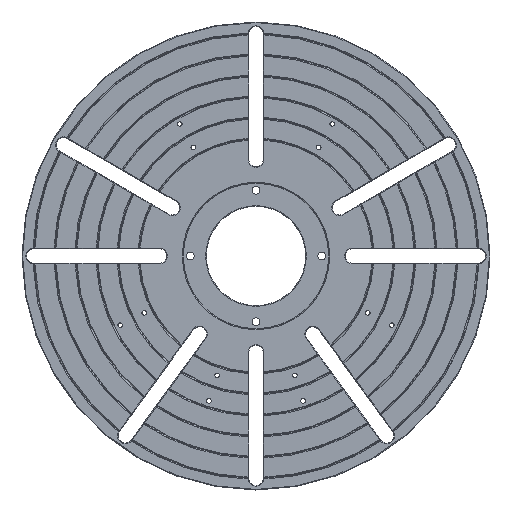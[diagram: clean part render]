
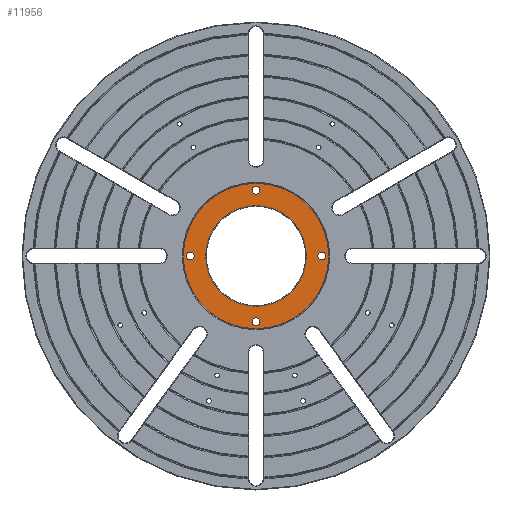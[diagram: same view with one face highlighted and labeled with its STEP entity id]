
A CAD part, top view. The second image highlights one B-rep face of the part: STEP entity #11956.
In plain terms, the highlighted planar face has unit normal (0, 0, 1).
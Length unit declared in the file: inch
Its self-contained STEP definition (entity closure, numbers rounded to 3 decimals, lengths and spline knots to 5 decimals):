
#22 = CIRCLE ( 'NONE', #10903, 0.068 ) ;
#164 = DIRECTION ( 'NONE',  ( 0., 0., 1. ) ) ;
#245 = EDGE_LOOP ( 'NONE', ( #4980, #3644 ) ) ;
#438 = AXIS2_PLACEMENT_3D ( 'NONE', #6849, #13136, #10832 ) ;
#711 = CIRCLE ( 'NONE', #12593, 0.068 ) ;
#932 = CARTESIAN_POINT ( 'NONE',  ( 0.86, 0., 0.166 ) ) ;
#1029 = ORIENTED_EDGE ( 'NONE', *, *, #10534, .F. ) ;
#1060 = EDGE_LOOP ( 'NONE', ( #3704, #4213 ) ) ;
#1062 = VERTEX_POINT ( 'NONE', #13602 ) ;
#1294 = DIRECTION ( 'NONE',  ( 0., 0., 1. ) ) ;
#1451 = AXIS2_PLACEMENT_3D ( 'NONE', #10547, #164, #6986 ) ;
#1683 = DIRECTION ( 'NONE',  ( 1., 0., 0. ) ) ;
#1782 = DIRECTION ( 'NONE',  ( 0., 0., -1. ) ) ;
#1887 = EDGE_LOOP ( 'NONE', ( #11850, #14687 ) ) ;
#1922 = FACE_BOUND ( 'NONE', #1887, .T. ) ;
#1926 = CIRCLE ( 'NONE', #2172, 0.068 ) ;
#2077 = DIRECTION ( 'NONE',  ( 1., 0., 0. ) ) ;
#2172 = AXIS2_PLACEMENT_3D ( 'NONE', #10251, #6840, #9037 ) ;
#2285 = EDGE_CURVE ( 'NONE', #14203, #6274, #12588, .T. ) ;
#2501 = CARTESIAN_POINT ( 'NONE',  ( 0., 1.125, 0.166 ) ) ;
#2569 = ORIENTED_EDGE ( 'NONE', *, *, #14588, .F. ) ;
#2592 = AXIS2_PLACEMENT_3D ( 'NONE', #10196, #11255, #2077 ) ;
#2774 = CARTESIAN_POINT ( 'NONE',  ( -0.86, 0., 0.166 ) ) ;
#3142 = AXIS2_PLACEMENT_3D ( 'NONE', #3345, #7052, #12750 ) ;
#3203 = CARTESIAN_POINT ( 'NONE',  ( 1.125, 0., 0.166 ) ) ;
#3218 = FACE_BOUND ( 'NONE', #12717, .T. ) ;
#3345 = CARTESIAN_POINT ( 'NONE',  ( 0., 0., 0.166 ) ) ;
#3348 = DIRECTION ( 'NONE',  ( 1., 0., 0. ) ) ;
#3385 = CARTESIAN_POINT ( 'NONE',  ( 0., 1.125, 0.166 ) ) ;
#3590 = DIRECTION ( 'NONE',  ( 0., 0., 1. ) ) ;
#3623 = CIRCLE ( 'NONE', #3142, 1.2425 ) ;
#3644 = ORIENTED_EDGE ( 'NONE', *, *, #7268, .T. ) ;
#3704 = ORIENTED_EDGE ( 'NONE', *, *, #8413, .F. ) ;
#4213 = ORIENTED_EDGE ( 'NONE', *, *, #7509, .F. ) ;
#4387 = EDGE_LOOP ( 'NONE', ( #12112, #8284 ) ) ;
#4550 = AXIS2_PLACEMENT_3D ( 'NONE', #12170, #1782, #6394 ) ;
#4640 = EDGE_CURVE ( 'NONE', #6274, #14203, #8661, .T. ) ;
#4794 = EDGE_CURVE ( 'NONE', #6430, #5957, #5529, .T. ) ;
#4980 = ORIENTED_EDGE ( 'NONE', *, *, #4794, .T. ) ;
#5334 = FACE_BOUND ( 'NONE', #5689, .T. ) ;
#5529 = CIRCLE ( 'NONE', #8195, 1.2425 ) ;
#5689 = EDGE_LOOP ( 'NONE', ( #13334, #2569 ) ) ;
#5957 = VERTEX_POINT ( 'NONE', #12781 ) ;
#6008 = AXIS2_PLACEMENT_3D ( 'NONE', #14655, #13670, #11176 ) ;
#6131 = CARTESIAN_POINT ( 'NONE',  ( -0.068, -1.125, 0.166 ) ) ;
#6268 = CIRCLE ( 'NONE', #1451, 0.068 ) ;
#6274 = VERTEX_POINT ( 'NONE', #2774 ) ;
#6333 = ORIENTED_EDGE ( 'NONE', *, *, #13546, .F. ) ;
#6394 = DIRECTION ( 'NONE',  ( 1., 0., 0. ) ) ;
#6430 = VERTEX_POINT ( 'NONE', #12336 ) ;
#6546 = FACE_BOUND ( 'NONE', #4387, .T. ) ;
#6597 = VERTEX_POINT ( 'NONE', #13981 ) ;
#6617 = PLANE ( 'NONE',  #6008 ) ;
#6629 = VERTEX_POINT ( 'NONE', #12070 ) ;
#6675 = DIRECTION ( 'NONE',  ( 1., 0., 0. ) ) ;
#6810 = CIRCLE ( 'NONE', #7524, 0.068 ) ;
#6840 = DIRECTION ( 'NONE',  ( 0., 0., 1. ) ) ;
#6849 = CARTESIAN_POINT ( 'NONE',  ( 1.125, 0., 0.166 ) ) ;
#6986 = DIRECTION ( 'NONE',  ( 1., 0., 0. ) ) ;
#7020 = AXIS2_PLACEMENT_3D ( 'NONE', #14342, #8494, #1683 ) ;
#7052 = DIRECTION ( 'NONE',  ( 0., 0., 1. ) ) ;
#7268 = EDGE_CURVE ( 'NONE', #5957, #6430, #3623, .T. ) ;
#7455 = VERTEX_POINT ( 'NONE', #7697 ) ;
#7509 = EDGE_CURVE ( 'NONE', #1062, #9112, #711, .T. ) ;
#7524 = AXIS2_PLACEMENT_3D ( 'NONE', #13651, #14861, #11224 ) ;
#7671 = FACE_BOUND ( 'NONE', #1060, .T. ) ;
#7697 = CARTESIAN_POINT ( 'NONE',  ( -1.193, 0., 0.166 ) ) ;
#8005 = DIRECTION ( 'NONE',  ( 1., 0., 0. ) ) ;
#8141 = CARTESIAN_POINT ( 'NONE',  ( 0.068, 1.125, 0.166 ) ) ;
#8156 = EDGE_CURVE ( 'NONE', #10268, #7455, #13574, .T. ) ;
#8195 = AXIS2_PLACEMENT_3D ( 'NONE', #13839, #3590, #10331 ) ;
#8284 = ORIENTED_EDGE ( 'NONE', *, *, #4640, .T. ) ;
#8413 = EDGE_CURVE ( 'NONE', #9112, #1062, #22, .T. ) ;
#8494 = DIRECTION ( 'NONE',  ( 0., 0., 1. ) ) ;
#8612 = DIRECTION ( 'NONE',  ( 0., 0., 1. ) ) ;
#8650 = FACE_OUTER_BOUND ( 'NONE', #245, .T. ) ;
#8661 = CIRCLE ( 'NONE', #4550, 0.86 ) ;
#8714 = CIRCLE ( 'NONE', #12851, 0.068 ) ;
#9037 = DIRECTION ( 'NONE',  ( 1., 0., 0. ) ) ;
#9112 = VERTEX_POINT ( 'NONE', #8141 ) ;
#9356 = VERTEX_POINT ( 'NONE', #11982 ) ;
#10196 = CARTESIAN_POINT ( 'NONE',  ( 0., 0., 0.166 ) ) ;
#10251 = CARTESIAN_POINT ( 'NONE',  ( 0., -1.125, 0.166 ) ) ;
#10268 = VERTEX_POINT ( 'NONE', #11655 ) ;
#10331 = DIRECTION ( 'NONE',  ( 1., 0., 0. ) ) ;
#10534 = EDGE_CURVE ( 'NONE', #6597, #6629, #14246, .T. ) ;
#10547 = CARTESIAN_POINT ( 'NONE',  ( 0., -1.125, 0.166 ) ) ;
#10832 = DIRECTION ( 'NONE',  ( 1., 0., 0. ) ) ;
#10903 = AXIS2_PLACEMENT_3D ( 'NONE', #2501, #1294, #3348 ) ;
#11176 = DIRECTION ( 'NONE',  ( 1., 0., 0. ) ) ;
#11224 = DIRECTION ( 'NONE',  ( 1., 0., 0. ) ) ;
#11255 = DIRECTION ( 'NONE',  ( 0., 0., -1. ) ) ;
#11655 = CARTESIAN_POINT ( 'NONE',  ( -1.057, 0., 0.166 ) ) ;
#11850 = ORIENTED_EDGE ( 'NONE', *, *, #13199, .F. ) ;
#11956 = ADVANCED_FACE ( 'NONE', ( #8650, #6546, #7671, #3218, #1922, #5334 ), #6617, .T. ) ;
#11982 = CARTESIAN_POINT ( 'NONE',  ( 0.068, -1.125, 0.166 ) ) ;
#12070 = CARTESIAN_POINT ( 'NONE',  ( 1.193, 0., 0.166 ) ) ;
#12112 = ORIENTED_EDGE ( 'NONE', *, *, #2285, .T. ) ;
#12170 = CARTESIAN_POINT ( 'NONE',  ( 0., 0., 0.166 ) ) ;
#12336 = CARTESIAN_POINT ( 'NONE',  ( 1.2425, 0., 0.166 ) ) ;
#12453 = DIRECTION ( 'NONE',  ( 0., 0., 1. ) ) ;
#12588 = CIRCLE ( 'NONE', #2592, 0.86 ) ;
#12593 = AXIS2_PLACEMENT_3D ( 'NONE', #3385, #8612, #8005 ) ;
#12717 = EDGE_LOOP ( 'NONE', ( #6333, #1029 ) ) ;
#12750 = DIRECTION ( 'NONE',  ( 1., 0., 0. ) ) ;
#12781 = CARTESIAN_POINT ( 'NONE',  ( -1.2425, 0., 0.166 ) ) ;
#12851 = AXIS2_PLACEMENT_3D ( 'NONE', #3203, #12453, #6675 ) ;
#13089 = EDGE_CURVE ( 'NONE', #14359, #9356, #1926, .T. ) ;
#13136 = DIRECTION ( 'NONE',  ( 0., 0., 1. ) ) ;
#13199 = EDGE_CURVE ( 'NONE', #9356, #14359, #6268, .T. ) ;
#13334 = ORIENTED_EDGE ( 'NONE', *, *, #8156, .F. ) ;
#13546 = EDGE_CURVE ( 'NONE', #6629, #6597, #8714, .T. ) ;
#13574 = CIRCLE ( 'NONE', #7020, 0.068 ) ;
#13602 = CARTESIAN_POINT ( 'NONE',  ( -0.068, 1.125, 0.166 ) ) ;
#13651 = CARTESIAN_POINT ( 'NONE',  ( -1.125, 0., 0.166 ) ) ;
#13670 = DIRECTION ( 'NONE',  ( 0., 0., 1. ) ) ;
#13839 = CARTESIAN_POINT ( 'NONE',  ( 0., 0., 0.166 ) ) ;
#13981 = CARTESIAN_POINT ( 'NONE',  ( 1.057, 0., 0.166 ) ) ;
#14203 = VERTEX_POINT ( 'NONE', #932 ) ;
#14246 = CIRCLE ( 'NONE', #438, 0.068 ) ;
#14342 = CARTESIAN_POINT ( 'NONE',  ( -1.125, 0., 0.166 ) ) ;
#14359 = VERTEX_POINT ( 'NONE', #6131 ) ;
#14588 = EDGE_CURVE ( 'NONE', #7455, #10268, #6810, .T. ) ;
#14655 = CARTESIAN_POINT ( 'NONE',  ( 0., 1.2505, 0.166 ) ) ;
#14687 = ORIENTED_EDGE ( 'NONE', *, *, #13089, .F. ) ;
#14861 = DIRECTION ( 'NONE',  ( 0., 0., 1. ) ) ;
